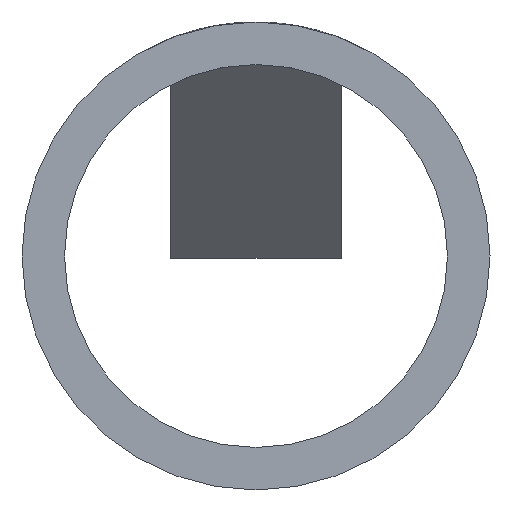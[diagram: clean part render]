
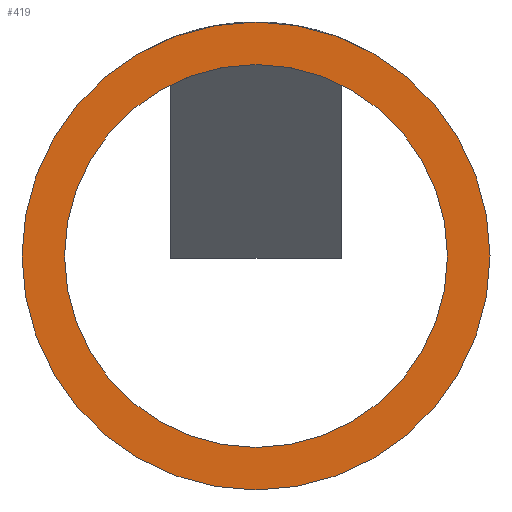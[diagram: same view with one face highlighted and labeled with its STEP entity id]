
A CAD part, front view. The second image highlights one B-rep face of the part: STEP entity #419.
In plain terms, the highlighted planar face has unit normal (0, -1, 0).
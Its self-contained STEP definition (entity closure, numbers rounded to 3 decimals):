
#39 = EDGE_LOOP ( 'NONE', ( #473, #486 ) ) ;
#45 = EDGE_LOOP ( 'NONE', ( #498, #483 ) ) ;
#64 = CIRCLE ( 'NONE', #186, 4.5 ) ;
#71 = CIRCLE ( 'NONE', #185, 5.5 ) ;
#90 = CIRCLE ( 'NONE', #121, 4.5 ) ;
#99 = CIRCLE ( 'NONE', #134, 5.5 ) ;
#121 = AXIS2_PLACEMENT_3D ( 'NONE', #342, #335, #332 ) ;
#134 = AXIS2_PLACEMENT_3D ( 'NONE', #357, #356, #354 ) ;
#139 = EDGE_CURVE ( 'NONE', #202, #315, #99, .T. ) ;
#145 = EDGE_CURVE ( 'NONE', #320, #328, #90, .T. ) ;
#160 = EDGE_CURVE ( 'NONE', #315, #202, #71, .T. ) ;
#163 = EDGE_CURVE ( 'NONE', #328, #320, #64, .T. ) ;
#180 = AXIS2_PLACEMENT_3D ( 'NONE', #219, #207, #206 ) ;
#185 = AXIS2_PLACEMENT_3D ( 'NONE', #336, #304, #303 ) ;
#186 = AXIS2_PLACEMENT_3D ( 'NONE', #329, #299, #298 ) ;
#202 = VERTEX_POINT ( 'NONE', #302 ) ;
#206 = DIRECTION ( 'NONE',  ( -1., 0., 0. ) ) ;
#207 = DIRECTION ( 'NONE',  ( 0., -1., 0. ) ) ;
#209 = PLANE ( 'NONE',  #180 ) ;
#219 = CARTESIAN_POINT ( 'NONE',  ( 0., 0., 0. ) ) ;
#269 = CARTESIAN_POINT ( 'NONE',  ( 4.5, 0., 0. ) ) ;
#273 = CARTESIAN_POINT ( 'NONE',  ( -4.5, 0., 0. ) ) ;
#275 = CARTESIAN_POINT ( 'NONE',  ( -5.5, 0., 0. ) ) ;
#298 = DIRECTION ( 'NONE',  ( -1., 0., 0. ) ) ;
#299 = DIRECTION ( 'NONE',  ( 0., -1., 0. ) ) ;
#302 = CARTESIAN_POINT ( 'NONE',  ( 5.5, 0., 0. ) ) ;
#303 = DIRECTION ( 'NONE',  ( -1., 0., 0. ) ) ;
#304 = DIRECTION ( 'NONE',  ( 0., -1., 0. ) ) ;
#315 = VERTEX_POINT ( 'NONE', #275 ) ;
#320 = VERTEX_POINT ( 'NONE', #273 ) ;
#328 = VERTEX_POINT ( 'NONE', #269 ) ;
#329 = CARTESIAN_POINT ( 'NONE',  ( 0., 0., 0. ) ) ;
#332 = DIRECTION ( 'NONE',  ( -1., 0., 0. ) ) ;
#335 = DIRECTION ( 'NONE',  ( 0., -1., 0. ) ) ;
#336 = CARTESIAN_POINT ( 'NONE',  ( 0., 0., 0. ) ) ;
#342 = CARTESIAN_POINT ( 'NONE',  ( 0., 0., 0. ) ) ;
#354 = DIRECTION ( 'NONE',  ( -1., 0., 0. ) ) ;
#356 = DIRECTION ( 'NONE',  ( 0., -1., 0. ) ) ;
#357 = CARTESIAN_POINT ( 'NONE',  ( 0., 0., 0. ) ) ;
#419 = ADVANCED_FACE ( 'NONE', ( #437, #439 ), #209, .T. ) ;
#437 = FACE_OUTER_BOUND ( 'NONE', #39, .T. ) ;
#439 = FACE_BOUND ( 'NONE', #45, .T. ) ;
#473 = ORIENTED_EDGE ( 'NONE', *, *, #139, .T. ) ;
#483 = ORIENTED_EDGE ( 'NONE', *, *, #145, .F. ) ;
#486 = ORIENTED_EDGE ( 'NONE', *, *, #160, .T. ) ;
#498 = ORIENTED_EDGE ( 'NONE', *, *, #163, .F. ) ;
